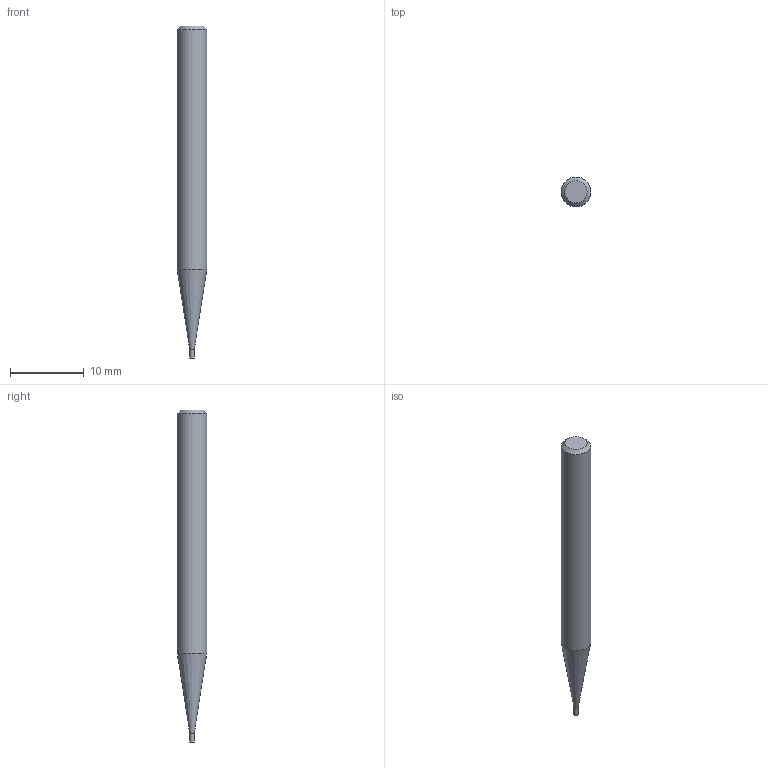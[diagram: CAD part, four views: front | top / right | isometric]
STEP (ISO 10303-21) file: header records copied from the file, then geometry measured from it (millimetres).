
FILE_DESCRIPTION((''),'2;1');
FILE_NAME('C:\Users\nsx150\AppData\Local\Temp\Mastercam 2021\W9Z147XDNF\TEMP.step','2021-04-08T14:29:43',(''),(''),'STEP Write','Mastercam 2021 ... CNC Software, Inc.','');
FILE_SCHEMA(('AUTOMOTIVE_DESIGN'));
Length unit declared in the file: millimetre
Products named in the file (1): None
Bounding box: 4 x 4 x 45 mm (x, y, z)
Volume: 467.1 mm3; surface area: 505.7 mm2
Topology: 2 solids, 2 shells, 8 faces, 10 edges, 6 vertices
Faces by surface type: plane 4, cylinder 2, cone 2
Full cylindrical faces by diameter (mm): 0.6 x1, 4 x1
Entity records: 190 total; most frequent: DIRECTION 32, CARTESIAN_POINT 22, AXIS2_PLACEMENT_3D 16, ORIENTED_EDGE 12, EDGE_LOOP 12, STYLED_ITEM 11, ADVANCED_FACE 8, VERTEX_POINT 6
